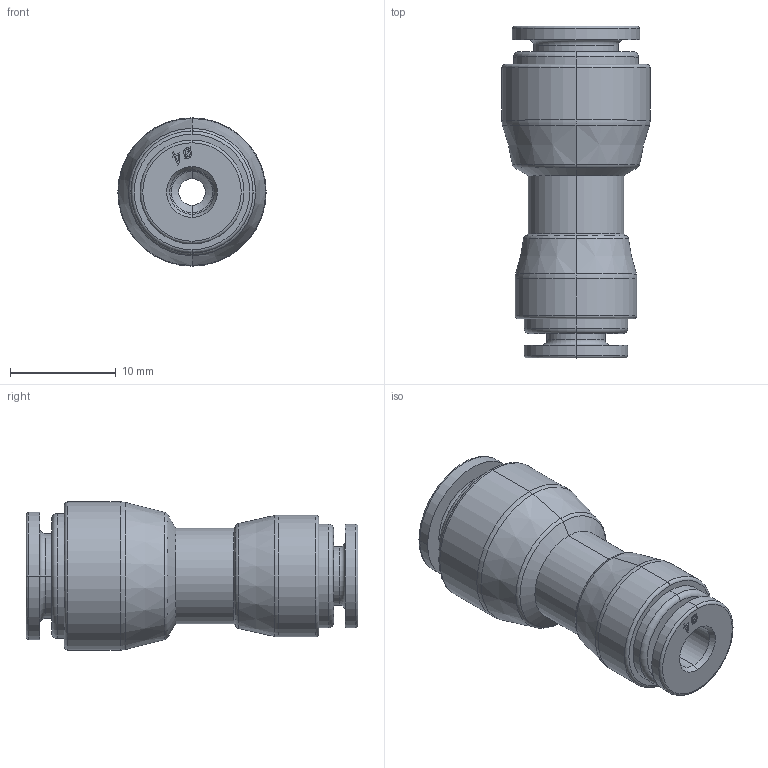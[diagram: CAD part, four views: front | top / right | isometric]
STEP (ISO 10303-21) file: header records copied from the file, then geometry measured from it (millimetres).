
FILE_DESCRIPTION (( 'STEP AP214' ), '1' );
FILE_NAME ('5304000009A.STEP', '2024-10-21T06:35:33', ( '' ), ( '' ), 'SwSTEP 2.0', 'SolidWorks 2020', '' );
FILE_SCHEMA (( 'AUTOMOTIVE_DESIGN' ));
Length unit declared in the file: millimetre
Products named in the file (1): 5304000009A
Bounding box: 14 x 31.32 x 14 mm (x, y, z)
Volume: 2468.4 mm3; surface area: 2053.9 mm2
Topology: 1 solids, 1 shells, 159 faces, 373 edges, 232 vertices
Faces by surface type: plane 49, bspline 42, torus 28, cylinder 24, cone 16
Entity records: 7988 total; most frequent: CARTESIAN_POINT 2759, ORIENTED_EDGE 746, DIRECTION 639, EDGE_CURVE 373, VERTEX_POINT 232, AXIS2_PLACEMENT_3D 232, EDGE_LOOP 177, VECTOR 175
